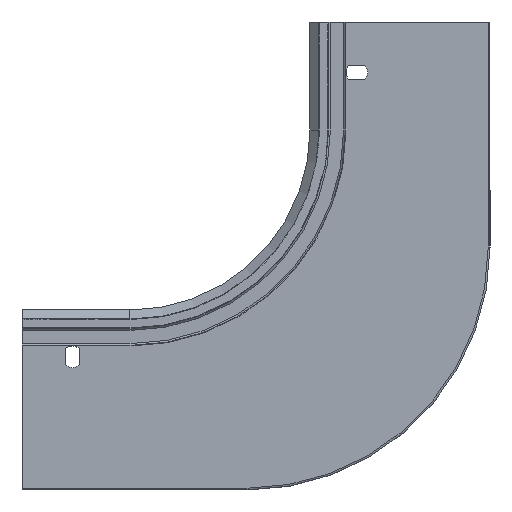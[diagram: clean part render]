
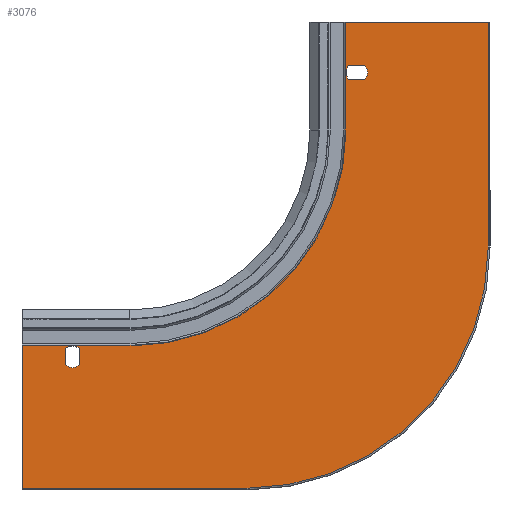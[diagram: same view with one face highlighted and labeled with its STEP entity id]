
A CAD part, left-side view. The second image highlights one B-rep face of the part: STEP entity #3076.
In plain terms, the highlighted planar face has unit normal (-1, 0, 0) as drawn and (0, -1, 0) by its records, which use the part's own axes.
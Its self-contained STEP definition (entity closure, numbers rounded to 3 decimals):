
#85 = VERTEX_POINT ( 'NONE', #4872 ) ;
#126 = VERTEX_POINT ( 'NONE', #222 ) ;
#146 = VECTOR ( 'NONE', #1452, 1000. ) ;
#163 = VECTOR ( 'NONE', #5320, 1000. ) ;
#173 = DIRECTION ( 'NONE',  ( -1., 0., 0. ) ) ;
#222 = CARTESIAN_POINT ( 'NONE',  ( 135., 0., -259. ) ) ;
#266 = CIRCLE ( 'NONE', #4040, 6. ) ;
#318 = EDGE_CURVE ( 'NONE', #85, #1185, #5547, .T. ) ;
#374 = DIRECTION ( 'NONE',  ( 1., 0., 0. ) ) ;
#378 = EDGE_LOOP ( 'NONE', ( #3924, #4526, #2169, #3954, #2967, #1093, #5876, #439 ) ) ;
#439 = ORIENTED_EDGE ( 'NONE', *, *, #1883, .F. ) ;
#504 = EDGE_CURVE ( 'NONE', #2974, #4868, #983, .T. ) ;
#553 = CARTESIAN_POINT ( 'NONE',  ( 74., 0., -28. ) ) ;
#642 = CIRCLE ( 'NONE', #3174, 6. ) ;
#768 = PLANE ( 'NONE',  #3159 ) ;
#983 = CIRCLE ( 'NONE', #4483, 6. ) ;
#1017 = FACE_BOUND ( 'NONE', #5992, .T. ) ;
#1038 = CIRCLE ( 'NONE', #4834, 134. ) ;
#1044 = LINE ( 'NONE', #2481, #5222 ) ;
#1061 = VERTEX_POINT ( 'NONE', #1963 ) ;
#1069 = DIRECTION ( 'NONE',  ( 0., 0., 1. ) ) ;
#1093 = ORIENTED_EDGE ( 'NONE', *, *, #4418, .F. ) ;
#1164 = DIRECTION ( 'NONE',  ( 0., 0., -1. ) ) ;
#1185 = VERTEX_POINT ( 'NONE', #4472 ) ;
#1187 = CARTESIAN_POINT ( 'NONE',  ( 0., 0., 0. ) ) ;
#1212 = LINE ( 'NONE', #3112, #1821 ) ;
#1218 = AXIS2_PLACEMENT_3D ( 'NONE', #4021, #5890, #1711 ) ;
#1338 = VERTEX_POINT ( 'NONE', #2282 ) ;
#1359 = DIRECTION ( 'NONE',  ( 0., 0., 1. ) ) ;
#1452 = DIRECTION ( 'NONE',  ( 1., 0., 0. ) ) ;
#1479 = FACE_BOUND ( 'NONE', #3871, .T. ) ;
#1492 = VECTOR ( 'NONE', #4892, 1000. ) ;
#1520 = CIRCLE ( 'NONE', #1218, 6. ) ;
#1551 = CARTESIAN_POINT ( 'NONE',  ( 228., 0., 0. ) ) ;
#1553 = DIRECTION ( 'NONE',  ( 0., 0., -1. ) ) ;
#1585 = EDGE_CURVE ( 'NONE', #4868, #4800, #5737, .T. ) ;
#1653 = DIRECTION ( 'NONE',  ( 0., -1., 0. ) ) ;
#1699 = CARTESIAN_POINT ( 'NONE',  ( 260., 0., -259. ) ) ;
#1711 = DIRECTION ( 'NONE',  ( 0., 0., -1. ) ) ;
#1764 = CARTESIAN_POINT ( 'NONE',  ( 200., 0., -179.669 ) ) ;
#1774 = CARTESIAN_POINT ( 'NONE',  ( 80.331, 0., 0. ) ) ;
#1805 = DIRECTION ( 'NONE',  ( 0., 0., -1. ) ) ;
#1821 = VECTOR ( 'NONE', #4963, 1000. ) ;
#1841 = LINE ( 'NONE', #2328, #2111 ) ;
#1883 = EDGE_CURVE ( 'NONE', #4281, #1998, #2884, .T. ) ;
#1892 = EDGE_CURVE ( 'NONE', #1061, #4281, #4711, .T. ) ;
#1963 = CARTESIAN_POINT ( 'NONE',  ( 1., 0., -125. ) ) ;
#1998 = VERTEX_POINT ( 'NONE', #1774 ) ;
#2036 = CARTESIAN_POINT ( 'NONE',  ( 78.472, 0., -24. ) ) ;
#2076 = DIRECTION ( 'NONE',  ( 0., 0., -1. ) ) ;
#2111 = VECTOR ( 'NONE', #5395, 1000. ) ;
#2129 = CARTESIAN_POINT ( 'NONE',  ( 200., 0., -179.669 ) ) ;
#2137 = CARTESIAN_POINT ( 'NONE',  ( 74., 0., -28. ) ) ;
#2147 = LINE ( 'NONE', #3113, #3553 ) ;
#2169 = ORIENTED_EDGE ( 'NONE', *, *, #2249, .F. ) ;
#2249 = EDGE_CURVE ( 'NONE', #4347, #126, #2677, .T. ) ;
#2282 = CARTESIAN_POINT ( 'NONE',  ( 78.472, 0., -32. ) ) ;
#2296 = CARTESIAN_POINT ( 'NONE',  ( 260., 0., -259. ) ) ;
#2328 = CARTESIAN_POINT ( 'NONE',  ( 260., 0., -260. ) ) ;
#2385 = DIRECTION ( 'NONE',  ( 0., -1., 0. ) ) ;
#2462 = CARTESIAN_POINT ( 'NONE',  ( 69.528, 0., -32. ) ) ;
#2481 = CARTESIAN_POINT ( 'NONE',  ( 80.331, 0., -60. ) ) ;
#2483 = VECTOR ( 'NONE', #5196, 1000. ) ;
#2549 = LINE ( 'NONE', #2129, #163 ) ;
#2562 = CARTESIAN_POINT ( 'NONE',  ( 135., 0., -125. ) ) ;
#2578 = CARTESIAN_POINT ( 'NONE',  ( 260., 0., -179.669 ) ) ;
#2677 = LINE ( 'NONE', #1699, #4325 ) ;
#2753 = ORIENTED_EDGE ( 'NONE', *, *, #5106, .F. ) ;
#2840 = ORIENTED_EDGE ( 'NONE', *, *, #3743, .F. ) ;
#2884 = LINE ( 'NONE', #5166, #146 ) ;
#2904 = ORIENTED_EDGE ( 'NONE', *, *, #1585, .F. ) ;
#2967 = ORIENTED_EDGE ( 'NONE', *, *, #3116, .F. ) ;
#2972 = CARTESIAN_POINT ( 'NONE',  ( 232., 0., -180. ) ) ;
#2974 = VERTEX_POINT ( 'NONE', #2972 ) ;
#2989 = CARTESIAN_POINT ( 'NONE',  ( 232., 0., -186. ) ) ;
#3004 = VERTEX_POINT ( 'NONE', #2462 ) ;
#3076 = ADVANCED_FACE ( 'NONE', ( #1479, #1017, #4737 ), #768, .T. ) ;
#3112 = CARTESIAN_POINT ( 'NONE',  ( 0., 0., -24. ) ) ;
#3113 = CARTESIAN_POINT ( 'NONE',  ( 0., 0., -32. ) ) ;
#3116 = EDGE_CURVE ( 'NONE', #5219, #3262, #2549, .T. ) ;
#3152 = DIRECTION ( 'NONE',  ( 0., -1., 0. ) ) ;
#3159 = AXIS2_PLACEMENT_3D ( 'NONE', #1187, #1653, #1164 ) ;
#3171 = CARTESIAN_POINT ( 'NONE',  ( 69.528, 0., -24. ) ) ;
#3174 = AXIS2_PLACEMENT_3D ( 'NONE', #553, #5332, #2076 ) ;
#3258 = VERTEX_POINT ( 'NONE', #4398 ) ;
#3262 = VERTEX_POINT ( 'NONE', #2578 ) ;
#3367 = AXIS2_PLACEMENT_3D ( 'NONE', #5993, #2385, #1805 ) ;
#3380 = CARTESIAN_POINT ( 'NONE',  ( 228., 0., -181.528 ) ) ;
#3410 = DIRECTION ( 'NONE',  ( 0., -1., 0. ) ) ;
#3553 = VECTOR ( 'NONE', #374, 1000. ) ;
#3743 = EDGE_CURVE ( 'NONE', #4800, #85, #1520, .T. ) ;
#3866 = CARTESIAN_POINT ( 'NONE',  ( 232., 0., -186. ) ) ;
#3871 = EDGE_LOOP ( 'NONE', ( #2753, #6011, #4193, #5597 ) ) ;
#3924 = ORIENTED_EDGE ( 'NONE', *, *, #1892, .F. ) ;
#3954 = ORIENTED_EDGE ( 'NONE', *, *, #5161, .F. ) ;
#4021 = CARTESIAN_POINT ( 'NONE',  ( 232., 0., -186. ) ) ;
#4040 = AXIS2_PLACEMENT_3D ( 'NONE', #2137, #3152, #5966 ) ;
#4193 = ORIENTED_EDGE ( 'NONE', *, *, #5497, .F. ) ;
#4207 = VERTEX_POINT ( 'NONE', #2036 ) ;
#4253 = CARTESIAN_POINT ( 'NONE',  ( 1., 0., -125. ) ) ;
#4281 = VERTEX_POINT ( 'NONE', #5162 ) ;
#4325 = VECTOR ( 'NONE', #173, 1000. ) ;
#4347 = VERTEX_POINT ( 'NONE', #2296 ) ;
#4398 = CARTESIAN_POINT ( 'NONE',  ( 80.331, 0., -60. ) ) ;
#4418 = EDGE_CURVE ( 'NONE', #3258, #5219, #4435, .T. ) ;
#4428 = CIRCLE ( 'NONE', #5710, 6. ) ;
#4435 = CIRCLE ( 'NONE', #3367, 119.669 ) ;
#4472 = CARTESIAN_POINT ( 'NONE',  ( 236., 0., -181.528 ) ) ;
#4480 = EDGE_CURVE ( 'NONE', #3258, #1998, #1044, .T. ) ;
#4483 = AXIS2_PLACEMENT_3D ( 'NONE', #2989, #3410, #4849 ) ;
#4496 = DIRECTION ( 'NONE',  ( 0., 1., 0. ) ) ;
#4526 = ORIENTED_EDGE ( 'NONE', *, *, #5607, .F. ) ;
#4709 = EDGE_CURVE ( 'NONE', #4207, #5193, #1212, .T. ) ;
#4711 = LINE ( 'NONE', #4253, #2483 ) ;
#4737 = FACE_OUTER_BOUND ( 'NONE', #378, .T. ) ;
#4800 = VERTEX_POINT ( 'NONE', #5583 ) ;
#4834 = AXIS2_PLACEMENT_3D ( 'NONE', #2562, #4496, #4897 ) ;
#4849 = DIRECTION ( 'NONE',  ( 0., 0., -1. ) ) ;
#4868 = VERTEX_POINT ( 'NONE', #3380 ) ;
#4872 = CARTESIAN_POINT ( 'NONE',  ( 236., 0., -190.472 ) ) ;
#4892 = DIRECTION ( 'NONE',  ( 0., 0., -1. ) ) ;
#4897 = DIRECTION ( 'NONE',  ( 0., 0., 1. ) ) ;
#4938 = EDGE_CURVE ( 'NONE', #1185, #2974, #4428, .T. ) ;
#4963 = DIRECTION ( 'NONE',  ( -1., 0., 0. ) ) ;
#5106 = EDGE_CURVE ( 'NONE', #5193, #3004, #266, .T. ) ;
#5161 = EDGE_CURVE ( 'NONE', #3262, #4347, #1841, .T. ) ;
#5162 = CARTESIAN_POINT ( 'NONE',  ( 1., 0., 0. ) ) ;
#5166 = CARTESIAN_POINT ( 'NONE',  ( 80., 0., 0. ) ) ;
#5176 = ORIENTED_EDGE ( 'NONE', *, *, #4938, .F. ) ;
#5193 = VERTEX_POINT ( 'NONE', #3171 ) ;
#5195 = EDGE_CURVE ( 'NONE', #3004, #1338, #2147, .T. ) ;
#5196 = DIRECTION ( 'NONE',  ( 0., 0., 1. ) ) ;
#5219 = VERTEX_POINT ( 'NONE', #1764 ) ;
#5222 = VECTOR ( 'NONE', #1069, 1000. ) ;
#5263 = VECTOR ( 'NONE', #1359, 1000. ) ;
#5320 = DIRECTION ( 'NONE',  ( 1., 0., 0. ) ) ;
#5332 = DIRECTION ( 'NONE',  ( 0., -1., 0. ) ) ;
#5395 = DIRECTION ( 'NONE',  ( 0., 0., -1. ) ) ;
#5497 = EDGE_CURVE ( 'NONE', #1338, #4207, #642, .T. ) ;
#5547 = LINE ( 'NONE', #5576, #5263 ) ;
#5576 = CARTESIAN_POINT ( 'NONE',  ( 236., 0., 0. ) ) ;
#5583 = CARTESIAN_POINT ( 'NONE',  ( 228., 0., -190.472 ) ) ;
#5597 = ORIENTED_EDGE ( 'NONE', *, *, #5195, .F. ) ;
#5607 = EDGE_CURVE ( 'NONE', #126, #1061, #1038, .T. ) ;
#5649 = ORIENTED_EDGE ( 'NONE', *, *, #504, .F. ) ;
#5710 = AXIS2_PLACEMENT_3D ( 'NONE', #3866, #5739, #1553 ) ;
#5737 = LINE ( 'NONE', #1551, #1492 ) ;
#5739 = DIRECTION ( 'NONE',  ( 0., -1., 0. ) ) ;
#5876 = ORIENTED_EDGE ( 'NONE', *, *, #4480, .T. ) ;
#5890 = DIRECTION ( 'NONE',  ( 0., -1., 0. ) ) ;
#5966 = DIRECTION ( 'NONE',  ( 0., 0., -1. ) ) ;
#5992 = EDGE_LOOP ( 'NONE', ( #2840, #2904, #5649, #5176, #5995 ) ) ;
#5993 = CARTESIAN_POINT ( 'NONE',  ( 200., 0., -60. ) ) ;
#5995 = ORIENTED_EDGE ( 'NONE', *, *, #318, .F. ) ;
#6011 = ORIENTED_EDGE ( 'NONE', *, *, #4709, .F. ) ;
